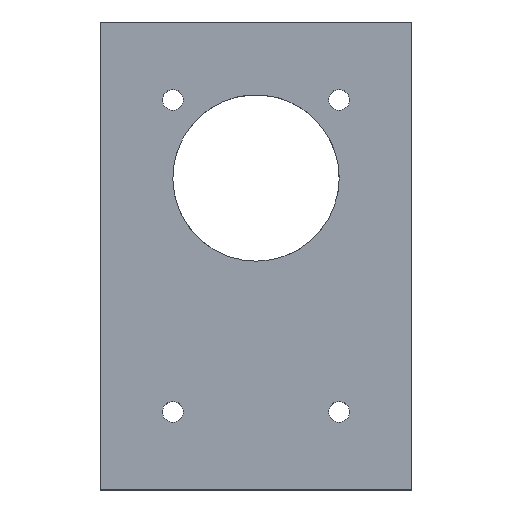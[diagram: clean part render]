
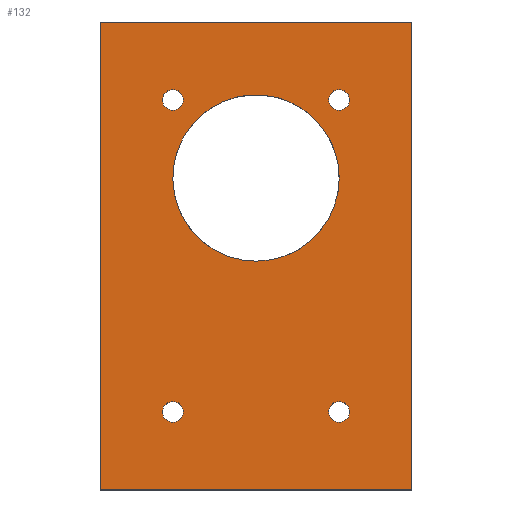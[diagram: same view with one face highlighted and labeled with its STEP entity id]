
A CAD part, top view. The second image highlights one B-rep face of the part: STEP entity #132.
In plain terms, the highlighted planar face has unit normal (0, 0, 1).
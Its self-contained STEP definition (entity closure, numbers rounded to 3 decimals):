
#5 = EDGE_LOOP ( 'NONE', ( #281 ) ) ;
#8 = ORIENTED_EDGE ( 'NONE', *, *, #186, .T. ) ;
#16 = CIRCLE ( 'NONE', #314, 1. ) ;
#24 = CARTESIAN_POINT ( 'NONE',  ( 8., 7.5, 3. ) ) ;
#29 = EDGE_CURVE ( 'NONE', #187, #187, #34, .T. ) ;
#34 = CIRCLE ( 'NONE', #53, 1. ) ;
#36 = DIRECTION ( 'NONE',  ( 1., 0., 0. ) ) ;
#38 = DIRECTION ( 'NONE',  ( 0., 0., 1. ) ) ;
#51 = CIRCLE ( 'NONE', #312, 1. ) ;
#53 = AXIS2_PLACEMENT_3D ( 'NONE', #57, #64, #397 ) ;
#55 = VERTEX_POINT ( 'NONE', #388 ) ;
#57 = CARTESIAN_POINT ( 'NONE',  ( -8., -15., 3. ) ) ;
#62 = CARTESIAN_POINT ( 'NONE',  ( 8., -15., 3. ) ) ;
#64 = DIRECTION ( 'NONE',  ( 0., 0., 1. ) ) ;
#65 = DIRECTION ( 'NONE',  ( 1., 0., 0. ) ) ;
#68 = DIRECTION ( 'NONE',  ( 0., 0., 1. ) ) ;
#75 = DIRECTION ( 'NONE',  ( 0., 1., 0. ) ) ;
#76 = CIRCLE ( 'NONE', #364, 1. ) ;
#80 = EDGE_CURVE ( 'NONE', #468, #468, #76, .T. ) ;
#88 = FACE_BOUND ( 'NONE', #130, .T. ) ;
#110 = CARTESIAN_POINT ( 'NONE',  ( 9., -15., 3. ) ) ;
#111 = EDGE_CURVE ( 'NONE', #229, #229, #517, .T. ) ;
#116 = LINE ( 'NONE', #514, #435 ) ;
#126 = DIRECTION ( 'NONE',  ( 0., 0., 1. ) ) ;
#130 = EDGE_LOOP ( 'NONE', ( #268 ) ) ;
#132 = ADVANCED_FACE ( 'NONE', ( #361, #366, #88, #283, #280, #249 ), #363, .T. ) ;
#135 = VERTEX_POINT ( 'NONE', #167 ) ;
#139 = EDGE_CURVE ( 'NONE', #185, #55, #444, .T. ) ;
#151 = CARTESIAN_POINT ( 'NONE',  ( 9., 15., 3. ) ) ;
#157 = CARTESIAN_POINT ( 'NONE',  ( 15., 0., 3. ) ) ;
#158 = EDGE_CURVE ( 'NONE', #458, #185, #116, .T. ) ;
#167 = CARTESIAN_POINT ( 'NONE',  ( 15., -22.5, 3. ) ) ;
#185 = VERTEX_POINT ( 'NONE', #242 ) ;
#186 = EDGE_CURVE ( 'NONE', #135, #55, #244, .T. ) ;
#187 = VERTEX_POINT ( 'NONE', #356 ) ;
#199 = DIRECTION ( 'NONE',  ( 0., 1., 0. ) ) ;
#207 = ORIENTED_EDGE ( 'NONE', *, *, #139, .F. ) ;
#210 = EDGE_CURVE ( 'NONE', #465, #465, #16, .T. ) ;
#218 = EDGE_LOOP ( 'NONE', ( #226 ) ) ;
#226 = ORIENTED_EDGE ( 'NONE', *, *, #80, .F. ) ;
#227 = CARTESIAN_POINT ( 'NONE',  ( 0., -22.5, 3. ) ) ;
#229 = VERTEX_POINT ( 'NONE', #24 ) ;
#242 = CARTESIAN_POINT ( 'NONE',  ( -15., 22.5, 3. ) ) ;
#244 = LINE ( 'NONE', #157, #352 ) ;
#249 = FACE_OUTER_BOUND ( 'NONE', #455, .T. ) ;
#257 = AXIS2_PLACEMENT_3D ( 'NONE', #428, #68, #296 ) ;
#265 = DIRECTION ( 'NONE',  ( 1., 0., 0. ) ) ;
#268 = ORIENTED_EDGE ( 'NONE', *, *, #29, .F. ) ;
#277 = CARTESIAN_POINT ( 'NONE',  ( 8., 15., 3. ) ) ;
#280 = FACE_BOUND ( 'NONE', #410, .T. ) ;
#281 = ORIENTED_EDGE ( 'NONE', *, *, #210, .F. ) ;
#283 = FACE_BOUND ( 'NONE', #218, .T. ) ;
#286 = DIRECTION ( 'NONE',  ( 1., 0., 0. ) ) ;
#287 = ORIENTED_EDGE ( 'NONE', *, *, #489, .T. ) ;
#296 = DIRECTION ( 'NONE',  ( 1., 0., 0. ) ) ;
#312 = AXIS2_PLACEMENT_3D ( 'NONE', #62, #431, #65 ) ;
#314 = AXIS2_PLACEMENT_3D ( 'NONE', #277, #38, #512 ) ;
#333 = VECTOR ( 'NONE', #286, 1000. ) ;
#338 = ORIENTED_EDGE ( 'NONE', *, *, #477, .F. ) ;
#348 = CARTESIAN_POINT ( 'NONE',  ( -7., 15., 3. ) ) ;
#350 = VECTOR ( 'NONE', #265, 1000. ) ;
#352 = VECTOR ( 'NONE', #75, 1000. ) ;
#356 = CARTESIAN_POINT ( 'NONE',  ( -7., -15., 3. ) ) ;
#361 = FACE_BOUND ( 'NONE', #378, .T. ) ;
#363 = PLANE ( 'NONE',  #494 ) ;
#364 = AXIS2_PLACEMENT_3D ( 'NONE', #502, #492, #427 ) ;
#366 = FACE_BOUND ( 'NONE', #5, .T. ) ;
#378 = EDGE_LOOP ( 'NONE', ( #405 ) ) ;
#386 = ORIENTED_EDGE ( 'NONE', *, *, #158, .F. ) ;
#388 = CARTESIAN_POINT ( 'NONE',  ( 15., 22.5, 3. ) ) ;
#390 = LINE ( 'NONE', #227, #350 ) ;
#393 = CARTESIAN_POINT ( 'NONE',  ( -15., -22.5, 3. ) ) ;
#397 = DIRECTION ( 'NONE',  ( 1., 0., 0. ) ) ;
#399 = CARTESIAN_POINT ( 'NONE',  ( 0., 22.5, 3. ) ) ;
#405 = ORIENTED_EDGE ( 'NONE', *, *, #111, .F. ) ;
#410 = EDGE_LOOP ( 'NONE', ( #338 ) ) ;
#427 = DIRECTION ( 'NONE',  ( 1., 0., 0. ) ) ;
#428 = CARTESIAN_POINT ( 'NONE',  ( 0., 7.5, 3. ) ) ;
#431 = DIRECTION ( 'NONE',  ( 0., 0., 1. ) ) ;
#435 = VECTOR ( 'NONE', #199, 1000. ) ;
#440 = CARTESIAN_POINT ( 'NONE',  ( 0., 0., 3. ) ) ;
#444 = LINE ( 'NONE', #399, #333 ) ;
#455 = EDGE_LOOP ( 'NONE', ( #287, #8, #207, #386 ) ) ;
#458 = VERTEX_POINT ( 'NONE', #393 ) ;
#465 = VERTEX_POINT ( 'NONE', #151 ) ;
#468 = VERTEX_POINT ( 'NONE', #348 ) ;
#471 = VERTEX_POINT ( 'NONE', #110 ) ;
#477 = EDGE_CURVE ( 'NONE', #471, #471, #51, .T. ) ;
#489 = EDGE_CURVE ( 'NONE', #458, #135, #390, .T. ) ;
#492 = DIRECTION ( 'NONE',  ( 0., 0., 1. ) ) ;
#494 = AXIS2_PLACEMENT_3D ( 'NONE', #440, #126, #36 ) ;
#502 = CARTESIAN_POINT ( 'NONE',  ( -8., 15., 3. ) ) ;
#512 = DIRECTION ( 'NONE',  ( 1., 0., 0. ) ) ;
#514 = CARTESIAN_POINT ( 'NONE',  ( -15., 0., 3. ) ) ;
#517 = CIRCLE ( 'NONE', #257, 8. ) ;
